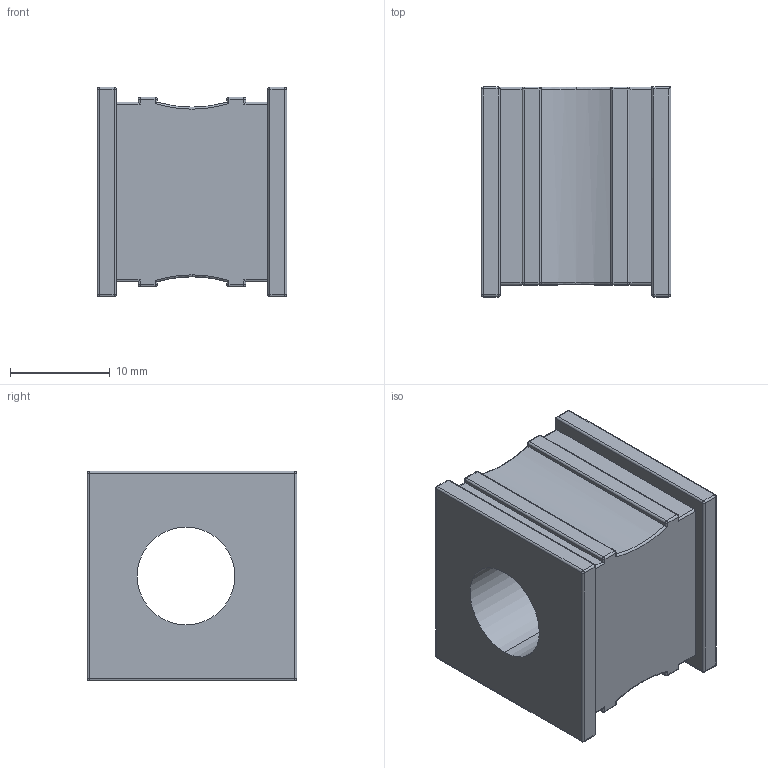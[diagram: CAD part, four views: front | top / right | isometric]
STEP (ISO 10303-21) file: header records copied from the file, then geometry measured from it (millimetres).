
FILE_DESCRIPTION (( 'STEP AP203' ), '1' );
FILE_NAME ('041210 KT10.STEP', '2023-03-07T03:31:29', ( '' ), ( '' ), 'SwSTEP 2.0', 'SolidWorks 2016', '' );
FILE_SCHEMA (( 'CONFIG_CONTROL_DESIGN' ));
Length unit declared in the file: millimetre
Products named in the file (1): 041210 KT10
Bounding box: 19 x 21 x 21 mm (x, y, z)
Volume: 5628 mm3; surface area: 3001.6 mm2
Topology: 1 solids, 1 shells, 157 faces, 373 edges, 191 vertices
Faces by surface type: cylinder 71, bspline 48, plane 38
Entity records: 5495 total; most frequent: CARTESIAN_POINT 2250, ORIENTED_EDGE 684, DIRECTION 626, EDGE_CURVE 342, AXIS2_PLACEMENT_3D 225, VERTEX_POINT 191, VECTOR 176, LINE 176
